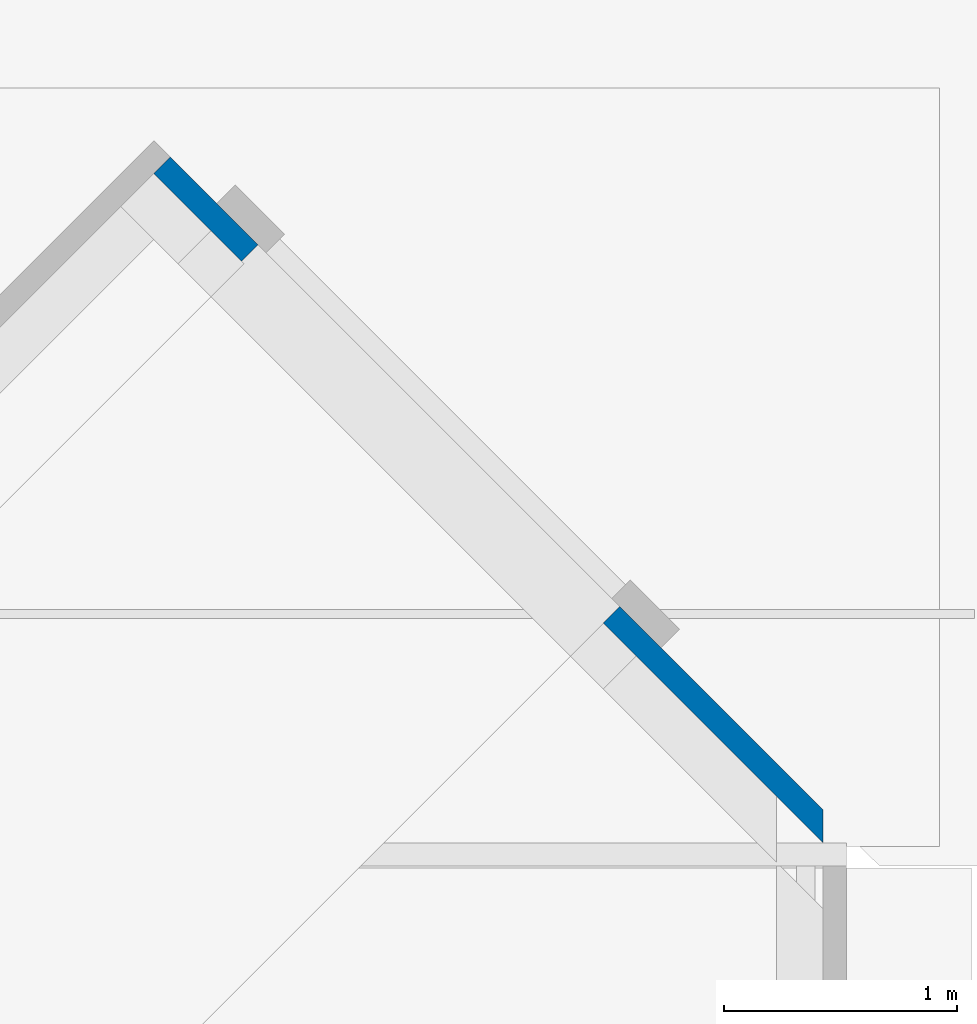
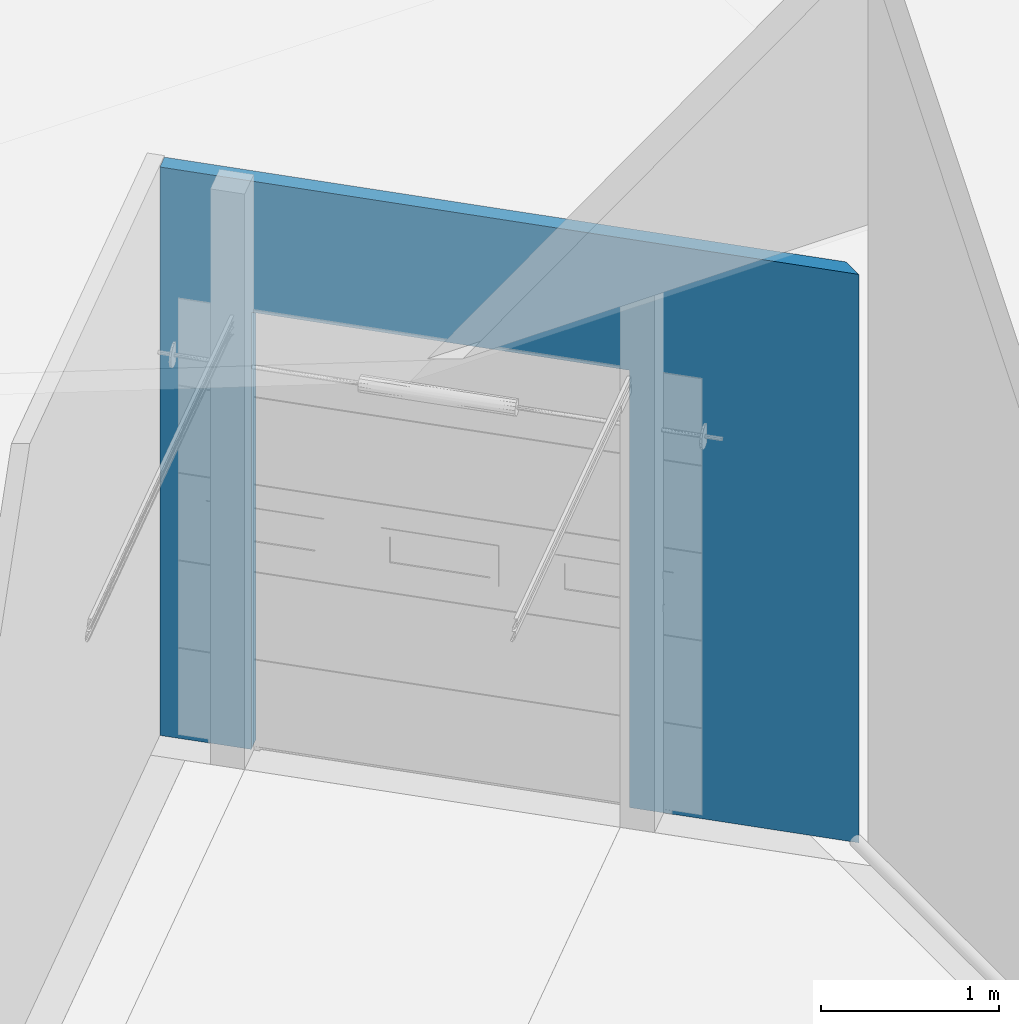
# One storey, part 52 of 64: 1 wall, 1 opening.
"""IFC2X3 building model written with IfcOpenShell, lengths in millimetres."""

from ifc_helpers import new_model, entity, si_unit, converted_unit, derived_unit, direction, frame, frame_2d, origin, place, context, subcontext, project, spatial, polyline, rectangle, outline, extrude, material, layer, layer_set, layer_usage, type_object, element, save


model = new_model("IFC2X3")

# Units and contexts
model_context = context("Model", 3, precision=0.01, world=origin(), true_north=direction((4.05803320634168e-15, -1.0)))
body_context = subcontext(model_context, "Body", "Model", "MODEL_VIEW")
ifc_project = project(units=[si_unit("LENGTHUNIT", "METRE", prefix="MILLI"), si_unit("AREAUNIT", "SQUARE_METRE"), si_unit("VOLUMEUNIT", "CUBIC_METRE"), converted_unit("PLANEANGLEUNIT", "DEGREE", entity("IfcRatioMeasure", 0.0174532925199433), si_unit("PLANEANGLEUNIT", "RADIAN"), dimensions=[0, 0, 0, 0, 0, 0, 0]), si_unit("MASSUNIT", "GRAM", prefix="KILO"), derived_unit("MASSDENSITYUNIT", [(si_unit("MASSUNIT", "GRAM", prefix="KILO"), 1), (si_unit("LENGTHUNIT", "METRE"), -3)]), si_unit("TIMEUNIT", "SECOND"), si_unit("FREQUENCYUNIT", "HERTZ"), si_unit("THERMODYNAMICTEMPERATUREUNIT", "DEGREE_CELSIUS"), derived_unit("THERMALTRANSMITTANCEUNIT", [(si_unit("MASSUNIT", "GRAM", prefix="KILO"), 1), (si_unit("THERMODYNAMICTEMPERATUREUNIT", "KELVIN"), -1), (si_unit("TIMEUNIT", "SECOND"), -3)]), derived_unit("VOLUMETRICFLOWRATEUNIT", [(si_unit("LENGTHUNIT", "METRE"), 3), (si_unit("TIMEUNIT", "SECOND"), -1)]), si_unit("ELECTRICCURRENTUNIT", "AMPERE"), si_unit("ELECTRICVOLTAGEUNIT", "VOLT"), si_unit("POWERUNIT", "WATT"), si_unit("FORCEUNIT", "NEWTON", prefix="KILO"), si_unit("ILLUMINANCEUNIT", "LUX"), si_unit("LUMINOUSFLUXUNIT", "LUMEN"), si_unit("LUMINOUSINTENSITYUNIT", "CANDELA"), derived_unit("USERDEFINED", [(si_unit("MASSUNIT", "GRAM", prefix="KILO"), -1), (si_unit("LENGTHUNIT", "METRE"), -2), (si_unit("TIMEUNIT", "SECOND"), 3), (si_unit("LUMINOUSFLUXUNIT", "LUMEN"), 1)]), derived_unit("LINEARVELOCITYUNIT", [(si_unit("LENGTHUNIT", "METRE"), 1), (si_unit("TIMEUNIT", "SECOND"), -1)]), si_unit("PRESSUREUNIT", "PASCAL"), derived_unit("USERDEFINED", [(si_unit("LENGTHUNIT", "METRE"), -2), (si_unit("MASSUNIT", "GRAM", prefix="KILO"), 1), (si_unit("TIMEUNIT", "SECOND"), -2)])], contexts=[model_context])

# Site, building, storey
site_placement = place(None, frame((927466.849349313, 583801.882853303, 0.0), z_axis=(0.0, 0.0, 1.0), x_axis=(-1.0, 0.0, 0.0)))
site = spatial("IfcSite", under=ifc_project, at=site_placement, Name="Surface", CompositionType="ELEMENT")
building_placement = place(site_placement, origin())
building = spatial("IfcBuilding", under=site, at=building_placement, CompositionType="ELEMENT")
storey_placement = place(building_placement, frame((0.0, 0.0, 44170.0)))
storey = spatial("IfcBuildingStorey", under=building, at=storey_placement, Name="Ground FFL", CompositionType="ELEMENT", Elevation=44170.0)

# Wall, opening
ifc_material = material(Name="Isopenal")
ifc_layer = layer(ifc_material, 100.0)
ifc_layer_set = layer_set([ifc_layer], Name="Basic Wall:Isopanel")
ifc_layer_usage = layer_usage(ifc_layer_set, "AXIS2", "POSITIVE", -50.0)
wall_type = type_object("IfcWallType", Name="Basic Wall:Isopanel", PredefinedType="STANDARD", material=ifc_layer_set)
wall_placement = place(storey_placement, frame((-134835.947118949, -30692.0408537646, 0.0), z_axis=(0.0, 0.0, 1.0), x_axis=(0.707106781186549, -0.707106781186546, 0.0)))
wall = element("IfcWallStandardCase", 1, at=wall_placement, inside=storey, type_object=wall_type, material=ifc_layer_usage, Name="Basic Wall:Isopanel", ObjectType="Basic Wall:Isopanel", context=body_context, shape_type="SweptSolid", body=[
    extrude(outline(polyline([(100.0, -50.0), (4067.58282787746, -50.0), (4067.58282787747, 50.0), (0.0, 50.0), (100.0, -50.0)])), origin(), (0.0, 0.0, 1.0), 3900.0),
])
opening_placement = place(wall_placement, frame((1335.53546033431, -50.0, 0.0)))
element("IfcOpeningElement", 2, at=opening_placement, cuts=wall, Name="6m_Roller Shutter Doors:3000(w) x 3000(h):1", ObjectType="Opening", context=body_context, shape_type="SweptSolid", body=[
    extrude(rectangle(XDim=3000.0, YDim=2200.0, at=frame_2d((1500.0, 1100.00000000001), x_axis=(1.0, 0.0))), frame((0.0, 0.0, 0.0), z_axis=(0.0, 1.0, 0.0), x_axis=(0.0, 0.0, 1.0)), (0.0, 0.0, 1.0), 100.0),
])

save(model, "model.ifc")
